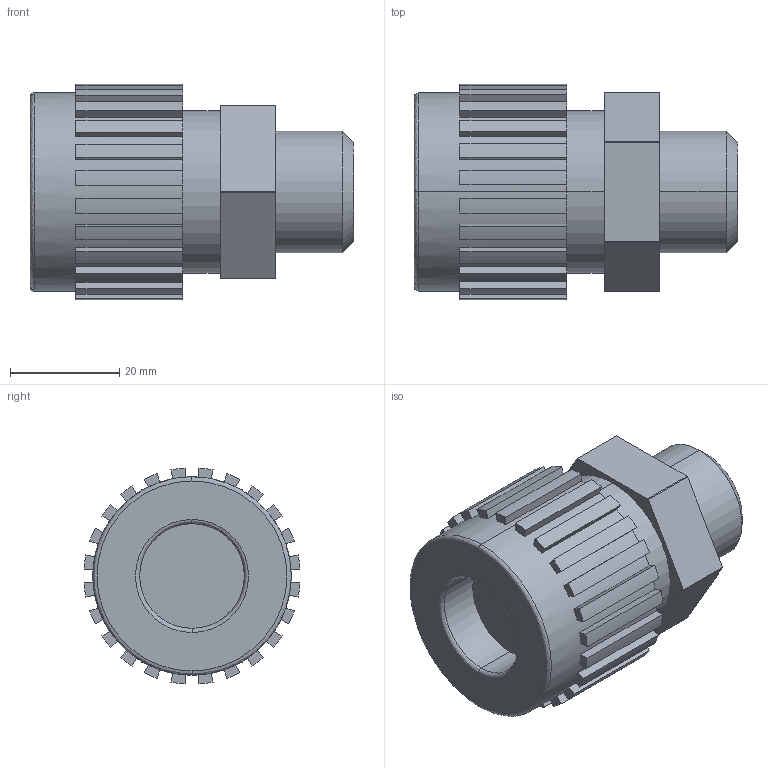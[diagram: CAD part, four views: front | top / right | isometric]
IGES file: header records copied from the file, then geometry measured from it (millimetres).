
Start section: SolidWorks IGES file using analytic representation for surfaces
Global section: file name: S:\Product Visuals\Defeatured Models and Parts Library\Parts Library IGES & STEP\Liquid Fittings\Front Mount liquid Fittings\Pillar S-300\30LPM\Fitting Pillar S-300 12.IGS; native system: SolidWorks 2012; preprocessor: SolidWorks 2012; author: rachel.dressel; date: 120928.140629; units: inch
Bounding box: 59.28 x 39.54 x 39.54 mm (x, y, z)
Volume: 47533.6 mm3; surface area: 10657.7 mm2
Topology: 1 solids, 1 shells, 128 faces, 360 edges, 238 vertices
Faces by surface type: plane 84, revolution 44
